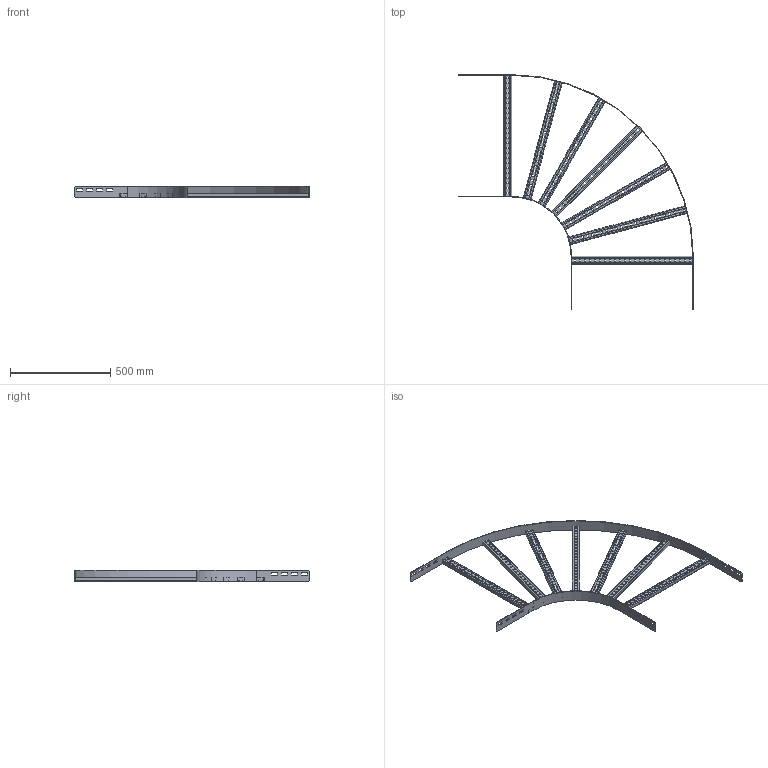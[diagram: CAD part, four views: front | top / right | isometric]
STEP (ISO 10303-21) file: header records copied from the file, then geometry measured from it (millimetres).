
FILE_DESCRIPTION(('Creo Elements/Direct Modeling STEP Export'),'2;1');
FILE_NAME('//pserver/office/EK/ME10-3D/3D-output/WPHB06-60-90-30-HDG.stp','2019-08-14T 9:44:39',(''),(''),'PTC Creo Elements/Direct Modeling STEP processor for AP214 (Solid Model)','PTC Creo Elements/Direct Modeling 19.0C 15-Aug-2015 (C) Parametric Technology GmbH','');
FILE_SCHEMA(('AUTOMOTIVE_DESIGN { 1 0 10303 214 1 1 1 1 }'));
Length unit declared in the file: millimetre
Products named in the file (4): WPHBA_60-60-90-300; WPHBS60.1.7; WPHBI_06-300; WPHB06-60-90-30-HDG
Assembly tree (9 placements, depth 2):
  WPHB06-60-90-30-HDG
    WPHBS60.1.7  x7
    WPHBI_06-300
    WPHBA_60-60-90-300
Bounding box: 1173 x 1173 x 55 mm (x, y, z)
Volume: 1088373.7 mm3; surface area: 1184981.9 mm2
Topology: 9 solids, 9 shells, 1044 faces, 3078 edges, 2052 vertices
Faces by surface type: plane 578, cylinder 466
Entity records: 7838 total; most frequent: CARTESIAN_POINT 1347, ORIENTED_EDGE 1332, DIRECTION 1280, EDGE_CURVE 666, VECTOR 526, LINE 526, VERTEX_POINT 444, AXIS2_PLACEMENT_3D 377
